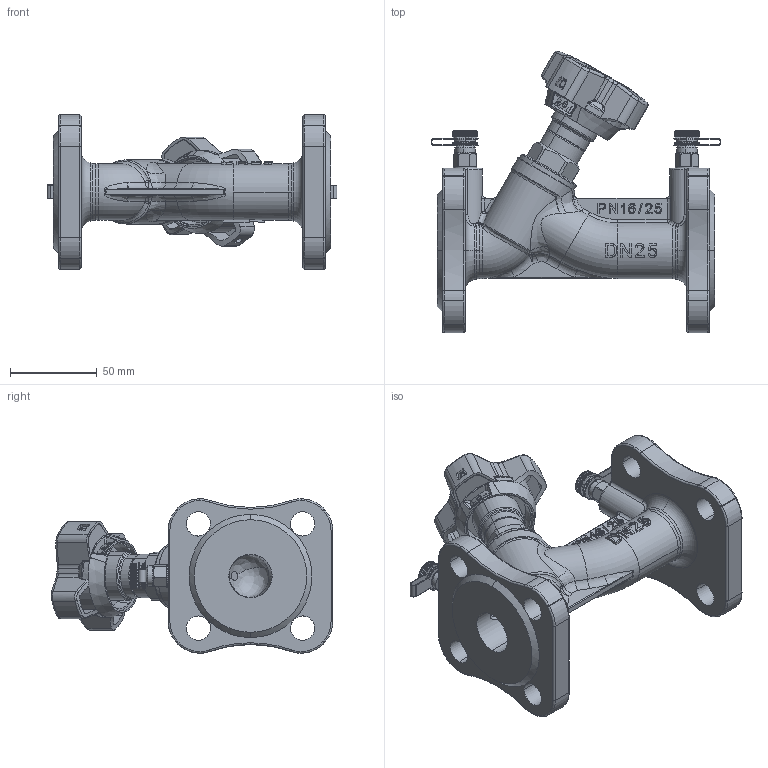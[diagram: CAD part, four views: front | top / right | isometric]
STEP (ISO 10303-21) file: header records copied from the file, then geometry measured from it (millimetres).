
FILE_DESCRIPTION (( 'STEP AP203' ), '1' );
FILE_NAME ('CM003002500 竣艇佴.STEP', '2024-01-10T07:18:29', ( '' ), ( '' ), 'SwSTEP 2.0', 'SolidWorks 2024', '' );
FILE_SCHEMA (( 'CONFIG_CONTROL_DESIGN' ));
Length unit declared in the file: millimetre
Products named in the file (25): tjf-22-sl-01-a.asm.STEP; 20503-15-50-04-z1.prt.STEP; tjf-22-sl-04-a.prt.STEP; tjf-22-sl-05-a.prt.STEP; 取压咀帽; 取压咀主体-30; 25借用.STEP; 取压咀; 20503-25-03-z.prt.STEP; 25借用; CM003002500  丹弗斯; 20503-25-04-z.prt.STEP; 20503-25-00-z.asm.STEP; CM003002501 丹弗斯; tjf-22-sl-02-a.prt.STEP; 20503-25-02-z.prt.STEP; tjf-22-sl-03-a.prt.STEP; O 型圈; 膨胀体; tjf-22-sl-01-a.prt.STEP; 20503-25-04-z1.prt.STEP; O 型圈 8x1; 20503-20-00-z.STEP; 20501-32-07-a.prt.STEP; 橡胶扣
Assembly tree (25 placements, depth 7):
  CM003002500  丹弗斯
    CM003002501 丹弗斯
    25借用
      25借用.STEP
        20503-20-00-z.STEP
          20503-25-00-z.asm.STEP
            tjf-22-sl-01-a.asm.STEP
              tjf-22-sl-01-a.prt.STEP
              tjf-22-sl-02-a.prt.STEP
              tjf-22-sl-03-a.prt.STEP
              tjf-22-sl-05-a.prt.STEP
              tjf-22-sl-04-a.prt.STEP
            20503-25-02-z.prt.STEP
            20503-25-04-z.prt.STEP
            20503-25-03-z.prt.STEP
            20503-25-04-z1.prt.STEP
            20503-15-50-04-z1.prt.STEP
            20501-32-07-a.prt.STEP
    取压咀  x2
      取压咀帽
      取压咀主体-30
      膨胀体
      橡胶扣
      O 型圈
      O 型圈 8x1
Bounding box: 167.2 x 162.5 x 89.1 mm (x, y, z)
Volume: 342707.1 mm3; surface area: 140642.9 mm2
Topology: 21 solids, 27 shells, 4144 faces, 11360 edges, 7395 vertices
Faces by surface type: plane 1721, cylinder 991, bspline 710, cone 380, torus 308, sphere 34
Entity records: 181996 total; most frequent: CARTESIAN_POINT 97246, ORIENTED_EDGE 19292, DIRECTION 13989, EDGE_CURVE 9652, VERTEX_POINT 6311, AXIS2_PLACEMENT_3D 4986, VECTOR 4017, LINE 4017
